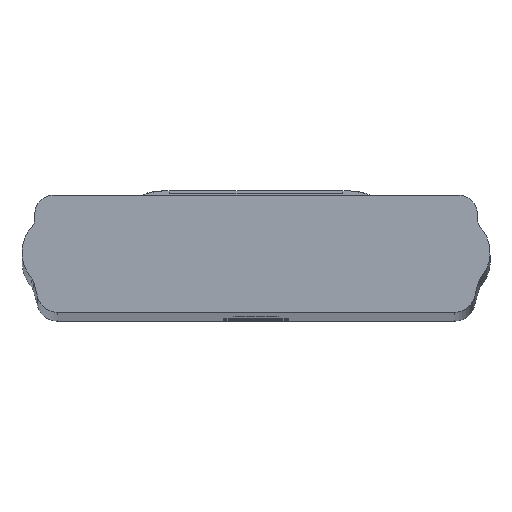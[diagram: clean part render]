
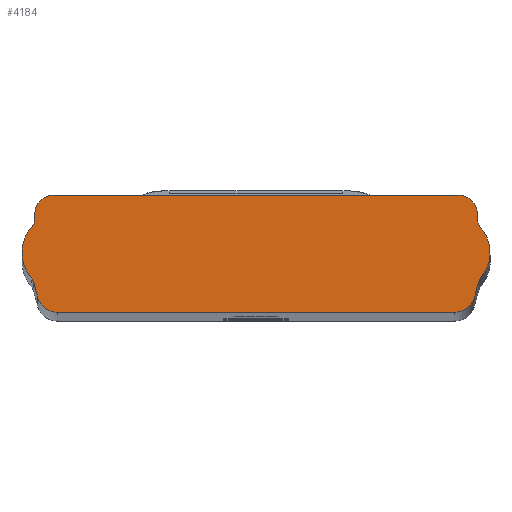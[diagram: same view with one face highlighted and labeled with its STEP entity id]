
A CAD part, top view. The second image highlights one B-rep face of the part: STEP entity #4184.
In plain terms, the highlighted planar face has unit normal (0, 0, 1).
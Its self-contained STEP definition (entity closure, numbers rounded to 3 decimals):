
#196 = ORIENTED_EDGE ( 'NONE', *, *, #2008, .T. ) ;
#197 = ORIENTED_EDGE ( 'NONE', *, *, #2010, .T. ) ;
#198 = ORIENTED_EDGE ( 'NONE', *, *, #2012, .T. ) ;
#199 = ORIENTED_EDGE ( 'NONE', *, *, #2014, .T. ) ;
#200 = ORIENTED_EDGE ( 'NONE', *, *, #2015, .T. ) ;
#201 = ORIENTED_EDGE ( 'NONE', *, *, #2161, .T. ) ;
#202 = ORIENTED_EDGE ( 'NONE', *, *, #2017, .T. ) ;
#203 = ORIENTED_EDGE ( 'NONE', *, *, #2019, .T. ) ;
#204 = ORIENTED_EDGE ( 'NONE', *, *, #2021, .T. ) ;
#205 = ORIENTED_EDGE ( 'NONE', *, *, #2023, .T. ) ;
#206 = ORIENTED_EDGE ( 'NONE', *, *, #1993, .T. ) ;
#207 = ORIENTED_EDGE ( 'NONE', *, *, #1996, .T. ) ;
#208 = ORIENTED_EDGE ( 'NONE', *, *, #1998, .T. ) ;
#209 = ORIENTED_EDGE ( 'NONE', *, *, #2000, .T. ) ;
#210 = ORIENTED_EDGE ( 'NONE', *, *, #2002, .T. ) ;
#211 = ORIENTED_EDGE ( 'NONE', *, *, #2004, .T. ) ;
#212 = ORIENTED_EDGE ( 'NONE', *, *, #2006, .T. ) ;
#583 = CARTESIAN_POINT ( 'NONE',  ( -21.267, 1.482, 498. ) ) ;
#584 = CARTESIAN_POINT ( 'NONE',  ( 21.267, 1.482, 498. ) ) ;
#588 = CARTESIAN_POINT ( 'NONE',  ( 21.53, 9.033, 498. ) ) ;
#639 = CARTESIAN_POINT ( 'NONE',  ( -21.869, 3.349, 498. ) ) ;
#674 = CARTESIAN_POINT ( 'NONE',  ( -21.792, 8.359, 498. ) ) ;
#687 = CARTESIAN_POINT ( 'NONE',  ( -21.53, 9.033, 498. ) ) ;
#780 = CARTESIAN_POINT ( 'NONE',  ( -21.53, 9.6, 498. ) ) ;
#809 = VERTEX_POINT ( 'NONE', #3094 ) ;
#843 = VERTEX_POINT ( 'NONE', #2938 ) ;
#929 = VERTEX_POINT ( 'NONE', #2978 ) ;
#1045 = VERTEX_POINT ( 'NONE', #3039 ) ;
#1103 = EDGE_LOOP ( 'NONE', ( #196, #197, #198, #199, #200, #201, #202, #203, #204, #205, #206, #207, #208, #209, #210, #211, #212 ) ) ;
#1305 = VERTEX_POINT ( 'NONE', #3083 ) ;
#1312 = VERTEX_POINT ( 'NONE', #3080 ) ;
#1993 = EDGE_CURVE ( 'NONE', #6403, #3939, #4613, .T. ) ;
#1996 = EDGE_CURVE ( 'NONE', #3939, #6354, #4618, .T. ) ;
#1998 = EDGE_CURVE ( 'NONE', #6354, #843, #4622, .T. ) ;
#2000 = EDGE_CURVE ( 'NONE', #843, #929, #4625, .T. ) ;
#2002 = EDGE_CURVE ( 'NONE', #929, #3958, #4628, .T. ) ;
#2004 = EDGE_CURVE ( 'NONE', #3958, #1045, #4631, .T. ) ;
#2006 = EDGE_CURVE ( 'NONE', #1045, #6316, #4635, .T. ) ;
#2008 = EDGE_CURVE ( 'NONE', #6316, #6352, #4638, .T. ) ;
#2010 = EDGE_CURVE ( 'NONE', #6352, #3397, #4642, .T. ) ;
#2012 = EDGE_CURVE ( 'NONE', #3397, #3444, #4645, .T. ) ;
#2014 = EDGE_CURVE ( 'NONE', #3444, #3447, #4649, .T. ) ;
#2015 = EDGE_CURVE ( 'NONE', #3447, #1305, #4651, .T. ) ;
#2017 = EDGE_CURVE ( 'NONE', #3427, #1312, #4653, .T. ) ;
#2019 = EDGE_CURVE ( 'NONE', #1312, #3937, #4656, .T. ) ;
#2021 = EDGE_CURVE ( 'NONE', #3937, #809, #4660, .T. ) ;
#2023 = EDGE_CURVE ( 'NONE', #809, #6403, #4615, .T. ) ;
#2161 = EDGE_CURVE ( 'NONE', #1305, #3427, #4881, .T. ) ;
#2273 = DIRECTION ( 'NONE',  ( 1., 0., 0. ) ) ;
#2279 = DIRECTION ( 'NONE',  ( 0., 0., 1. ) ) ;
#2294 = DIRECTION ( 'NONE',  ( 1., 0., 0. ) ) ;
#2304 = DIRECTION ( 'NONE',  ( -1., 0., 0. ) ) ;
#2306 = DIRECTION ( 'NONE',  ( 0., 0., -1. ) ) ;
#2316 = DIRECTION ( 'NONE',  ( 1., 0., 0. ) ) ;
#2323 = DIRECTION ( 'NONE',  ( 0., 0., -1. ) ) ;
#2330 = CARTESIAN_POINT ( 'NONE',  ( -19.73, 9.6, 498. ) ) ;
#2337 = DIRECTION ( 'NONE',  ( 1., 0., 0. ) ) ;
#2339 = CARTESIAN_POINT ( 'NONE',  ( 21.53, 9.6, 498. ) ) ;
#2353 = DIRECTION ( 'NONE',  ( 0., 1., 0. ) ) ;
#2363 = CARTESIAN_POINT ( 'NONE',  ( -19., 5.81, 498. ) ) ;
#2368 = CARTESIAN_POINT ( 'NONE',  ( -21.267, 1.482, 498. ) ) ;
#2373 = DIRECTION ( 'NONE',  ( 1., 0., 0. ) ) ;
#2386 = CARTESIAN_POINT ( 'NONE',  ( 19.335, 0., 498. ) ) ;
#2390 = CARTESIAN_POINT ( 'NONE',  ( -22.628, 2.698, 498. ) ) ;
#2397 = DIRECTION ( 'NONE',  ( 0.259, 0.966, 0. ) ) ;
#2406 = DIRECTION ( 'NONE',  ( 0., 0., 1. ) ) ;
#2412 = CARTESIAN_POINT ( 'NONE',  ( 22.628, 2.698, 498. ) ) ;
#2418 = DIRECTION ( 'NONE',  ( 0., 0., -1. ) ) ;
#2421 = CARTESIAN_POINT ( 'NONE',  ( 19.335, 2., 498. ) ) ;
#2425 = DIRECTION ( 'NONE',  ( 1., 0., 0. ) ) ;
#2444 = CARTESIAN_POINT ( 'NONE',  ( 19.73, 11.4, 498. ) ) ;
#2445 = DIRECTION ( 'NONE',  ( 0., 0., -1. ) ) ;
#2453 = CARTESIAN_POINT ( 'NONE',  ( 22.53, 9.033, 498. ) ) ;
#2458 = CARTESIAN_POINT ( 'NONE',  ( -21.53, 9.6, 498. ) ) ;
#2462 = DIRECTION ( 'NONE',  ( 1., 0., 0. ) ) ;
#2463 = DIRECTION ( 'NONE',  ( 0.259, -0.966, 0. ) ) ;
#2464 = CARTESIAN_POINT ( 'NONE',  ( 19.73, 9.6, 498. ) ) ;
#2469 = CARTESIAN_POINT ( 'NONE',  ( -19.335, 2., 498. ) ) ;
#2473 = DIRECTION ( 'NONE',  ( 0., 0., 1. ) ) ;
#2482 = CARTESIAN_POINT ( 'NONE',  ( 21.267, 1.482, 498. ) ) ;
#2483 = DIRECTION ( 'NONE',  ( 1., 0., 0. ) ) ;
#2484 = DIRECTION ( 'NONE',  ( 1., 0., 0. ) ) ;
#2485 = DIRECTION ( 'NONE',  ( 0., 0., 1. ) ) ;
#2504 = DIRECTION ( 'NONE',  ( 0., 0., 1. ) ) ;
#2508 = DIRECTION ( 'NONE',  ( 1., 0., 0. ) ) ;
#2510 = DIRECTION ( 'NONE',  ( 0., 0., 1. ) ) ;
#2511 = CARTESIAN_POINT ( 'NONE',  ( 19., 5.81, 498. ) ) ;
#2512 = DIRECTION ( 'NONE',  ( 0., -1., 0. ) ) ;
#2517 = CARTESIAN_POINT ( 'NONE',  ( -22.53, 9.033, 498. ) ) ;
#2520 = DIRECTION ( 'NONE',  ( 1., 0., 0. ) ) ;
#2583 = DIRECTION ( 'NONE',  ( 0., 0., 1. ) ) ;
#2614 = DIRECTION ( 'NONE',  ( 1., 0., 0. ) ) ;
#2691 = PLANE ( 'NONE',  #3891 ) ;
#2692 = CARTESIAN_POINT ( 'NONE',  ( 19.335, 2., 498. ) ) ;
#2695 = CARTESIAN_POINT ( 'NONE',  ( 19.73, 11.4, 498. ) ) ;
#2938 = CARTESIAN_POINT ( 'NONE',  ( 21.869, 3.349, 498. ) ) ;
#2978 = CARTESIAN_POINT ( 'NONE',  ( 21.792, 8.359, 498. ) ) ;
#3039 = CARTESIAN_POINT ( 'NONE',  ( 21.53, 9.6, 498. ) ) ;
#3080 = CARTESIAN_POINT ( 'NONE',  ( -21.662, 2.957, 498. ) ) ;
#3083 = CARTESIAN_POINT ( 'NONE',  ( -22.78, 5.81, 498. ) ) ;
#3094 = CARTESIAN_POINT ( 'NONE',  ( -19.335, 0., 498. ) ) ;
#3397 = VERTEX_POINT ( 'NONE', #780 ) ;
#3427 = VERTEX_POINT ( 'NONE', #639 ) ;
#3444 = VERTEX_POINT ( 'NONE', #687 ) ;
#3447 = VERTEX_POINT ( 'NONE', #674 ) ;
#3579 = AXIS2_PLACEMENT_3D ( 'NONE', #2421, #2504, #2508 ) ;
#3580 = AXIS2_PLACEMENT_3D ( 'NONE', #2412, #2418, #2484 ) ;
#3581 = AXIS2_PLACEMENT_3D ( 'NONE', #2511, #2510, #2316 ) ;
#3582 = AXIS2_PLACEMENT_3D ( 'NONE', #2453, #2323, #2520 ) ;
#3583 = AXIS2_PLACEMENT_3D ( 'NONE', #2464, #2473, #2337 ) ;
#3584 = AXIS2_PLACEMENT_3D ( 'NONE', #2330, #2279, #2273 ) ;
#3585 = AXIS2_PLACEMENT_3D ( 'NONE', #2517, #2306, #2294 ) ;
#3586 = AXIS2_PLACEMENT_3D ( 'NONE', #2363, #2406, #2483 ) ;
#3587 = AXIS2_PLACEMENT_3D ( 'NONE', #2390, #2445, #2462 ) ;
#3588 = AXIS2_PLACEMENT_3D ( 'NONE', #2469, #2485, #2425 ) ;
#3647 = AXIS2_PLACEMENT_3D ( 'NONE', #5647, #5532, #5475 ) ;
#3891 = AXIS2_PLACEMENT_3D ( 'NONE', #2692, #2583, #2614 ) ;
#3937 = VERTEX_POINT ( 'NONE', #583 ) ;
#3939 = VERTEX_POINT ( 'NONE', #584 ) ;
#3958 = VERTEX_POINT ( 'NONE', #588 ) ;
#4184 = ADVANCED_FACE ( 'NONE', ( #5348 ), #2691, .T. ) ;
#4236 = CARTESIAN_POINT ( 'NONE',  ( -19.73, 11.4, 498. ) ) ;
#4257 = CARTESIAN_POINT ( 'NONE',  ( 21.662, 2.957, 498. ) ) ;
#4287 = CARTESIAN_POINT ( 'NONE',  ( 19.335, 0., 498. ) ) ;
#4613 = CIRCLE ( 'NONE', #3579, 2. ) ;
#4615 = LINE ( 'NONE', #2386, #4665 ) ;
#4618 = LINE ( 'NONE', #2482, #4621 ) ;
#4621 = VECTOR ( 'NONE', #2397, 1000. ) ;
#4622 = CIRCLE ( 'NONE', #3580, 1. ) ;
#4625 = CIRCLE ( 'NONE', #3581, 3.78 ) ;
#4628 = CIRCLE ( 'NONE', #3582, 1. ) ;
#4631 = LINE ( 'NONE', #2339, #4634 ) ;
#4634 = VECTOR ( 'NONE', #2353, 1000. ) ;
#4635 = CIRCLE ( 'NONE', #3583, 1.8 ) ;
#4638 = LINE ( 'NONE', #2444, #4641 ) ;
#4641 = VECTOR ( 'NONE', #2304, 1000. ) ;
#4642 = CIRCLE ( 'NONE', #3584, 1.8 ) ;
#4645 = LINE ( 'NONE', #2458, #4648 ) ;
#4648 = VECTOR ( 'NONE', #2512, 1000. ) ;
#4649 = CIRCLE ( 'NONE', #3585, 1. ) ;
#4651 = CIRCLE ( 'NONE', #3586, 3.78 ) ;
#4653 = CIRCLE ( 'NONE', #3587, 1. ) ;
#4656 = LINE ( 'NONE', #2368, #4659 ) ;
#4659 = VECTOR ( 'NONE', #2463, 1000. ) ;
#4660 = CIRCLE ( 'NONE', #3588, 2. ) ;
#4665 = VECTOR ( 'NONE', #2373, 1000. ) ;
#4881 = CIRCLE ( 'NONE', #3647, 3.78 ) ;
#5348 = FACE_OUTER_BOUND ( 'NONE', #1103, .T. ) ;
#5475 = DIRECTION ( 'NONE',  ( 1., 0., 0. ) ) ;
#5532 = DIRECTION ( 'NONE',  ( 0., 0., 1. ) ) ;
#5647 = CARTESIAN_POINT ( 'NONE',  ( -19., 5.81, 498. ) ) ;
#6316 = VERTEX_POINT ( 'NONE', #2695 ) ;
#6352 = VERTEX_POINT ( 'NONE', #4236 ) ;
#6354 = VERTEX_POINT ( 'NONE', #4257 ) ;
#6403 = VERTEX_POINT ( 'NONE', #4287 ) ;
